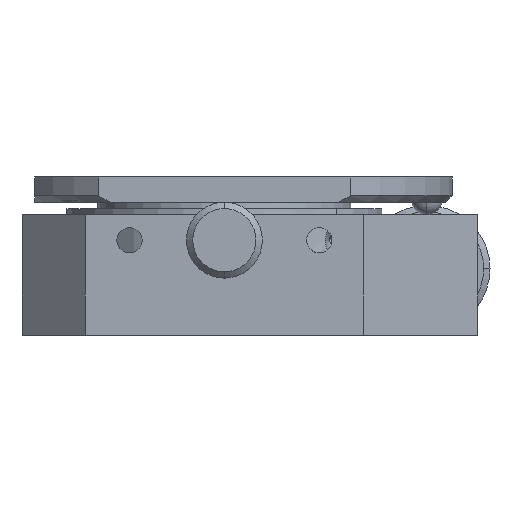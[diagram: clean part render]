
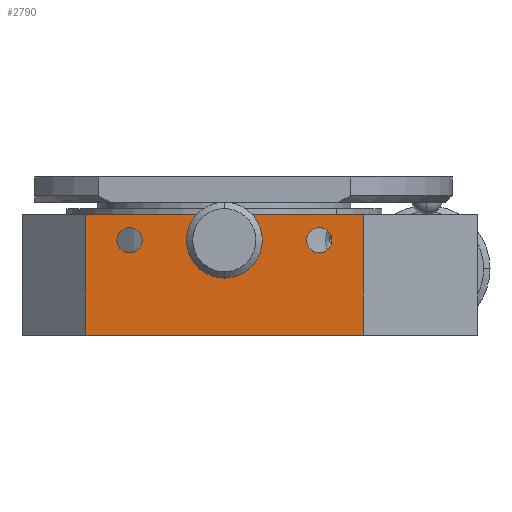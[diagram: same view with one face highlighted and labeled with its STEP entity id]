
A CAD part, front view. The second image highlights one B-rep face of the part: STEP entity #2790.
In plain terms, the highlighted planar face has unit normal (0, -1, 0).
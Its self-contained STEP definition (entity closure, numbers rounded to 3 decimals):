
#61 = EDGE_CURVE ( 'NONE', #2526, #404, #1787, .T. ) ;
#155 = EDGE_CURVE ( 'NONE', #2131, #4297, #5145, .T. ) ;
#184 = ORIENTED_EDGE ( 'NONE', *, *, #2825, .T. ) ;
#222 = CIRCLE ( 'NONE', #1297, 2. ) ;
#251 = EDGE_CURVE ( 'NONE', #4297, #2131, #899, .T. ) ;
#275 = VECTOR ( 'NONE', #2678, 1000. ) ;
#404 = VERTEX_POINT ( 'NONE', #1763 ) ;
#468 = CARTESIAN_POINT ( 'NONE',  ( 0., -32., -3. ) ) ;
#713 = DIRECTION ( 'NONE',  ( 0., -1., 0. ) ) ;
#804 = CARTESIAN_POINT ( 'NONE',  ( -15., -32., 0. ) ) ;
#836 = DIRECTION ( 'NONE',  ( 0., -1., 0. ) ) ;
#841 = VECTOR ( 'NONE', #5040, 1000. ) ;
#876 = VERTEX_POINT ( 'NONE', #4265 ) ;
#899 = CIRCLE ( 'NONE', #2389, 2. ) ;
#930 = LINE ( 'NONE', #2919, #1650 ) ;
#1064 = FACE_BOUND ( 'NONE', #3986, .T. ) ;
#1077 = CARTESIAN_POINT ( 'NONE',  ( -15., -32., -2. ) ) ;
#1199 = CARTESIAN_POINT ( 'NONE',  ( 15., -32., 2. ) ) ;
#1229 = AXIS2_PLACEMENT_3D ( 'NONE', #2551, #3345, #4212 ) ;
#1249 = CARTESIAN_POINT ( 'NONE',  ( 15., -32., 0. ) ) ;
#1259 = ORIENTED_EDGE ( 'NONE', *, *, #2382, .F. ) ;
#1297 = AXIS2_PLACEMENT_3D ( 'NONE', #2102, #3393, #2169 ) ;
#1400 = VECTOR ( 'NONE', #4902, 1000. ) ;
#1640 = EDGE_CURVE ( 'NONE', #876, #2589, #2744, .T. ) ;
#1650 = VECTOR ( 'NONE', #2479, 1000. ) ;
#1671 = EDGE_CURVE ( 'NONE', #2526, #3526, #3753, .T. ) ;
#1698 = DIRECTION ( 'NONE',  ( 0., 0., -1. ) ) ;
#1752 = EDGE_CURVE ( 'NONE', #1926, #3169, #222, .T. ) ;
#1763 = CARTESIAN_POINT ( 'NONE',  ( -22., -32., -15. ) ) ;
#1772 = EDGE_CURVE ( 'NONE', #2589, #876, #2159, .T. ) ;
#1787 = LINE ( 'NONE', #2213, #841 ) ;
#1926 = VERTEX_POINT ( 'NONE', #4963 ) ;
#1949 = AXIS2_PLACEMENT_3D ( 'NONE', #3276, #836, #1698 ) ;
#2102 = CARTESIAN_POINT ( 'NONE',  ( 15., -32., 0. ) ) ;
#2131 = VERTEX_POINT ( 'NONE', #4287 ) ;
#2159 = CIRCLE ( 'NONE', #1229, 3. ) ;
#2169 = DIRECTION ( 'NONE',  ( 0., 0., -1. ) ) ;
#2213 = CARTESIAN_POINT ( 'NONE',  ( -22., -32., -15. ) ) ;
#2278 = PLANE ( 'NONE',  #3437 ) ;
#2300 = CARTESIAN_POINT ( 'NONE',  ( 40., -32., -15. ) ) ;
#2307 = EDGE_LOOP ( 'NONE', ( #184, #5144, #4671, #3094 ) ) ;
#2382 = EDGE_CURVE ( 'NONE', #3169, #1926, #3994, .T. ) ;
#2389 = AXIS2_PLACEMENT_3D ( 'NONE', #804, #2419, #5274 ) ;
#2419 = DIRECTION ( 'NONE',  ( 0., -1., 0. ) ) ;
#2479 = DIRECTION ( 'NONE',  ( 0., 0., 1. ) ) ;
#2526 = VERTEX_POINT ( 'NONE', #4179 ) ;
#2551 = CARTESIAN_POINT ( 'NONE',  ( 0., -32., 0. ) ) ;
#2589 = VERTEX_POINT ( 'NONE', #468 ) ;
#2592 = ORIENTED_EDGE ( 'NONE', *, *, #155, .F. ) ;
#2678 = DIRECTION ( 'NONE',  ( 1., 0., 0. ) ) ;
#2701 = VERTEX_POINT ( 'NONE', #3827 ) ;
#2714 = CARTESIAN_POINT ( 'NONE',  ( 22., -32., 4. ) ) ;
#2744 = CIRCLE ( 'NONE', #1949, 3. ) ;
#2790 = ADVANCED_FACE ( 'NONE', ( #4993, #3987, #1064, #4377 ), #2278, .T. ) ;
#2825 = EDGE_CURVE ( 'NONE', #404, #2701, #5253, .T. ) ;
#2881 = DIRECTION ( 'NONE',  ( 0., -1., 0. ) ) ;
#2888 = ORIENTED_EDGE ( 'NONE', *, *, #1772, .F. ) ;
#2919 = CARTESIAN_POINT ( 'NONE',  ( 22., -32., -15. ) ) ;
#2937 = ORIENTED_EDGE ( 'NONE', *, *, #1640, .F. ) ;
#2982 = EDGE_CURVE ( 'NONE', #2701, #3526, #930, .T. ) ;
#3094 = ORIENTED_EDGE ( 'NONE', *, *, #61, .T. ) ;
#3132 = CARTESIAN_POINT ( 'NONE',  ( 40., -32., -15. ) ) ;
#3169 = VERTEX_POINT ( 'NONE', #1199 ) ;
#3191 = CARTESIAN_POINT ( 'NONE',  ( -15., -32., 0. ) ) ;
#3276 = CARTESIAN_POINT ( 'NONE',  ( 0., -32., 0. ) ) ;
#3289 = CARTESIAN_POINT ( 'NONE',  ( 40., -32., 4. ) ) ;
#3345 = DIRECTION ( 'NONE',  ( 0., -1., 0. ) ) ;
#3393 = DIRECTION ( 'NONE',  ( 0., -1., 0. ) ) ;
#3437 = AXIS2_PLACEMENT_3D ( 'NONE', #2300, #713, #4292 ) ;
#3526 = VERTEX_POINT ( 'NONE', #2714 ) ;
#3753 = LINE ( 'NONE', #3289, #1400 ) ;
#3827 = CARTESIAN_POINT ( 'NONE',  ( 22., -32., -15. ) ) ;
#3918 = ORIENTED_EDGE ( 'NONE', *, *, #251, .F. ) ;
#3975 = EDGE_LOOP ( 'NONE', ( #4783, #1259 ) ) ;
#3986 = EDGE_LOOP ( 'NONE', ( #2888, #2937 ) ) ;
#3987 = FACE_BOUND ( 'NONE', #3975, .T. ) ;
#3994 = CIRCLE ( 'NONE', #4797, 2. ) ;
#4093 = DIRECTION ( 'NONE',  ( 0., 0., -1. ) ) ;
#4179 = CARTESIAN_POINT ( 'NONE',  ( -22., -32., 4. ) ) ;
#4212 = DIRECTION ( 'NONE',  ( 0., 0., -1. ) ) ;
#4265 = CARTESIAN_POINT ( 'NONE',  ( 0., -32., 3. ) ) ;
#4287 = CARTESIAN_POINT ( 'NONE',  ( -15., -32., 2. ) ) ;
#4292 = DIRECTION ( 'NONE',  ( 1., 0., 0. ) ) ;
#4297 = VERTEX_POINT ( 'NONE', #1077 ) ;
#4330 = DIRECTION ( 'NONE',  ( 0., 0., -1. ) ) ;
#4348 = DIRECTION ( 'NONE',  ( 0., -1., 0. ) ) ;
#4377 = FACE_OUTER_BOUND ( 'NONE', #2307, .T. ) ;
#4671 = ORIENTED_EDGE ( 'NONE', *, *, #1671, .F. ) ;
#4773 = EDGE_LOOP ( 'NONE', ( #3918, #2592 ) ) ;
#4783 = ORIENTED_EDGE ( 'NONE', *, *, #1752, .F. ) ;
#4797 = AXIS2_PLACEMENT_3D ( 'NONE', #1249, #2881, #4093 ) ;
#4902 = DIRECTION ( 'NONE',  ( 1., 0., 0. ) ) ;
#4963 = CARTESIAN_POINT ( 'NONE',  ( 15., -32., -2. ) ) ;
#4993 = FACE_BOUND ( 'NONE', #4773, .T. ) ;
#5040 = DIRECTION ( 'NONE',  ( 0., 0., -1. ) ) ;
#5144 = ORIENTED_EDGE ( 'NONE', *, *, #2982, .T. ) ;
#5145 = CIRCLE ( 'NONE', #5185, 2. ) ;
#5185 = AXIS2_PLACEMENT_3D ( 'NONE', #3191, #4348, #4330 ) ;
#5253 = LINE ( 'NONE', #3132, #275 ) ;
#5274 = DIRECTION ( 'NONE',  ( 0., 0., -1. ) ) ;
